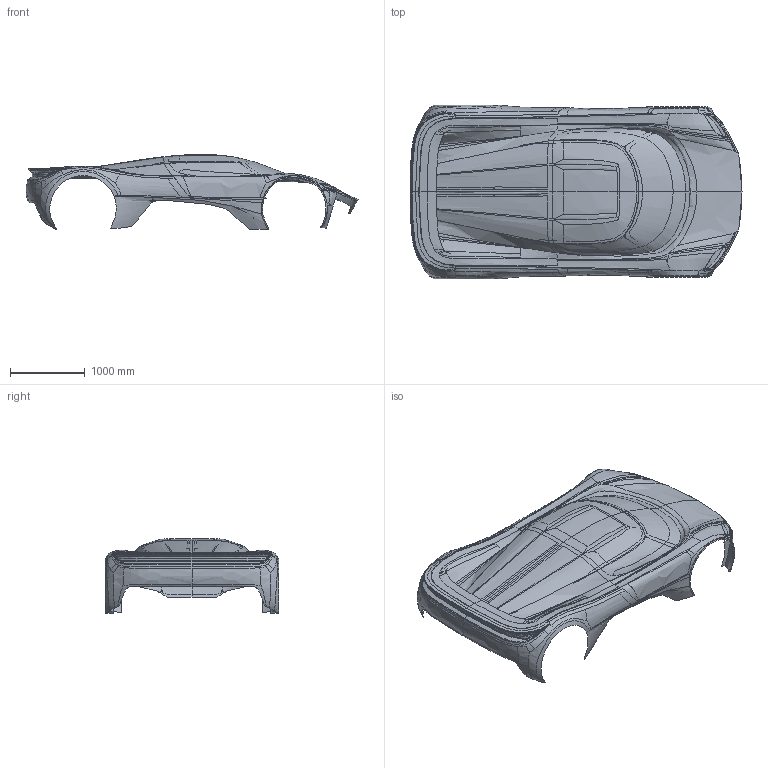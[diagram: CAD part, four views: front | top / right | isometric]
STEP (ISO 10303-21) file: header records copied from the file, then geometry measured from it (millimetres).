
FILE_DESCRIPTION(('Liger macro NURBS open sheets'),'2;1');
FILE_NAME('Liger_Refined_CAD.step','2026-11-01T00:00:00',(''),(''),'Slate','SolidArc','');
FILE_SCHEMA(('AUTOMOTIVE_DESIGN { 1 0 10303 214 1 1 1 1 }'));
Length unit declared in the file: millimetre
Products named in the file (1): Liger_Refined_CAD
Bounding box: 4440.2 x 2322.25 x 1000.86 mm (x, y, z)
Surface area: 15658532 mm2 (no closed solid volume)
Topology: 0 solids, 8 shells, 306 faces, 906 edges, 595 vertices
Faces by surface type: bspline 306
Entity records: 52571 total; most frequent: CARTESIAN_POINT 47267, ORIENTED_EDGE 1650, B_SPLINE_CURVE_WITH_KNOTS 906, EDGE_CURVE 906, VERTEX_POINT 595, B_SPLINE_SURFACE_WITH_KNOTS 306, EDGE_LOOP 306, FACE_OUTER_BOUND 306
